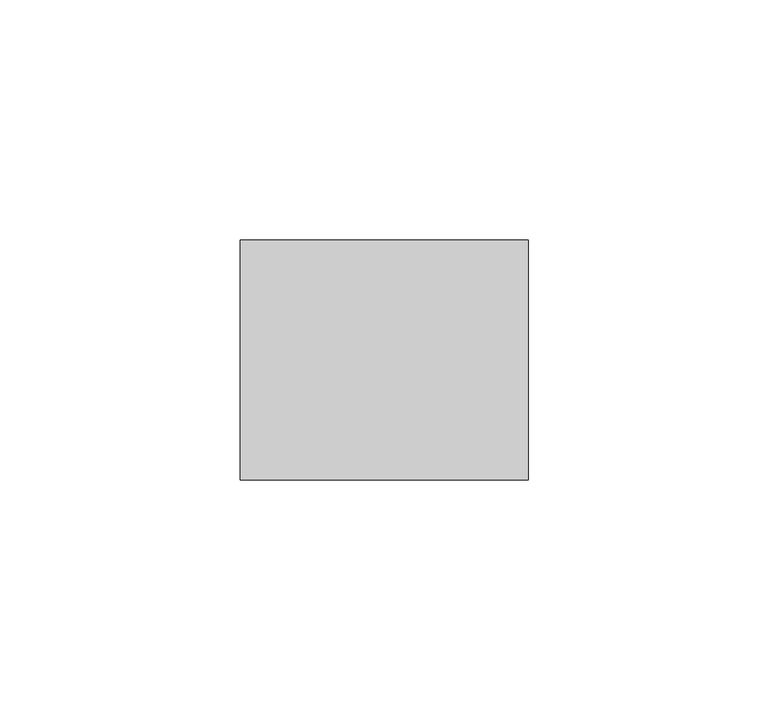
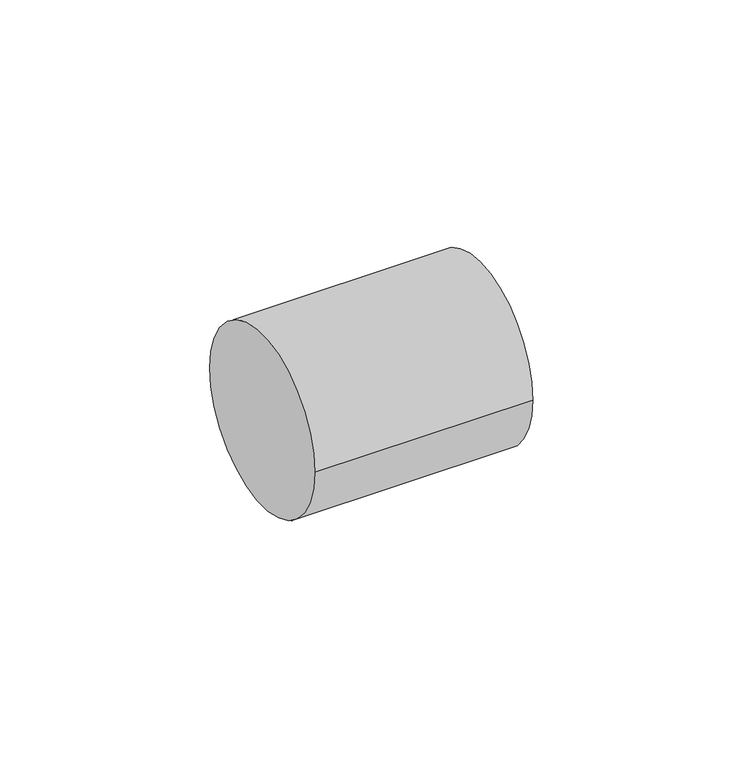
"""IFC4 building model written with IfcOpenShell, lengths in millimetres: pipe fitting geometry."""

from ifc_helpers import new_model, si_unit, point, frame, origin, origin_2d, place, context, project, spatial, circle_curve, trimmed, segment, composite_curve, outline, extrude, source, transform, mapped, element, save


def pipe_fitting_bed2c911(model_context):
    return source(origin(), model_context, "Body", "SweptSolid", [
        extrude(outline(composite_curve([segment(trimmed(circle_curve(origin_2d(), 25.0), [point((-25.0, 0.0))], [point((25.0, 0.0))], False, "CARTESIAN"), True, "CONTINUOUS"), segment(trimmed(circle_curve(origin_2d(), 25.0), [point((25.0, 0.0))], [point((-25.0, 0.0))], False, "CARTESIAN"), True, "CONTINUOUS")], self_intersect=False)), frame((-30.0, 0.0, 0.0), z_axis=(1.0, 0.0, 0.0), x_axis=(0.0, 1.0, 0.0)), (0.0, 0.0, 1.0), 60.0),
    ])


if __name__ == "__main__":
    model = new_model("IFC4")
    model_context = context("Model", 3, world=origin())
    ifc_project = project(units=[si_unit("LENGTHUNIT", "METRE", prefix="MILLI")], contexts=[model_context])
    site = spatial("IfcSite", under=ifc_project)
    building = spatial("IfcBuilding", under=site)
    placement = place(None, origin())
    pipe_fitting_shape = pipe_fitting_bed2c911(model_context)
    element("IfcPipeFitting", 1, ObjectType="NLRS_52_PIF_UN_PE overgangsstuk met buitendraad_geb : DN50-70-R2½\" / ø50-75-R2½\"", at=placement, inside=building, context=model_context, shape_type="MappedRepresentation", body=[
        mapped(pipe_fitting_shape, transform((0.0, 0.0, 0.0), x_axis=(1.0, 0.0, 0.0), y_axis=(0.0, 1.0, 0.0), z_axis=(0.0, 0.0, 1.0))),
    ])
    save(model, "model.ifc")
